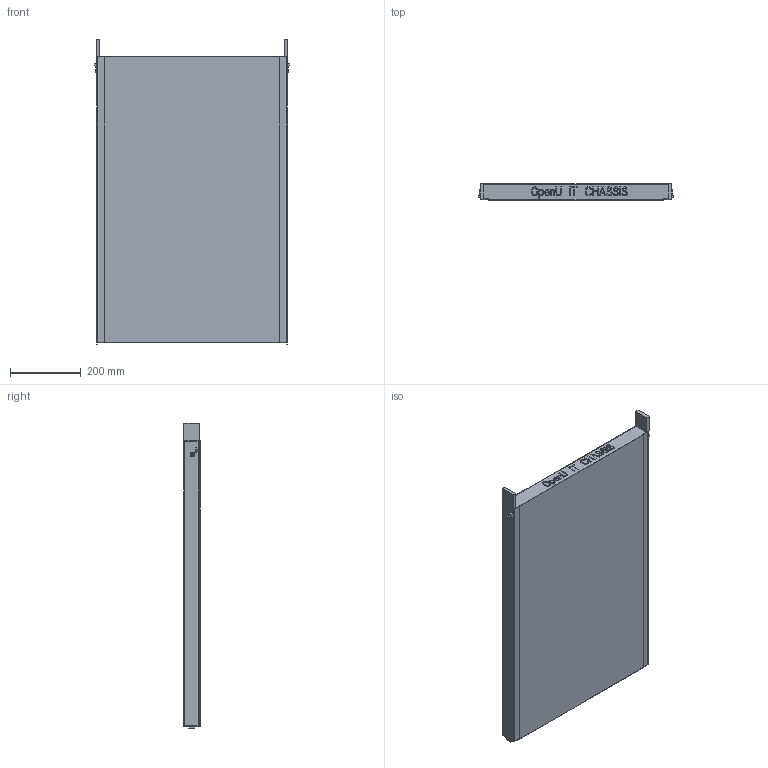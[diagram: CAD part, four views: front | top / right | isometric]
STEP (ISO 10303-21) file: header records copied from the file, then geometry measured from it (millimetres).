
FILE_DESCRIPTION((''),'2;1');
FILE_NAME('002-OU_IT_SPACIAL_ORV3_REF_03','2022-09-29T22:59:49',('gpcharest'),(''),'CREO PARAMETRIC BY PTC INC, 2021424','CREO PARAMETRIC BY PTC INC, 2021424','');
FILE_SCHEMA(('CONFIG_CONTROL_DESIGN'));
Length unit declared in the file: millimetre
Products named in the file (1): 002-OU_IT_SPACIAL_ORV3_REF_03
Bounding box: 552 x 46.5 x 862 mm (x, y, z)
Volume: 1457275.9 mm3; surface area: 1972171.7 mm2
Topology: 1 solids, 3 shells, 533 faces, 1509 edges, 1006 vertices
Faces by surface type: plane 521, cylinder 12
Entity records: 16969 total; most frequent: CARTESIAN_POINT 3049, ORIENTED_EDGE 3018, DIRECTION 2603, EDGE_CURVE 1509, VECTOR 1483, LINE 1483, VERTEX_POINT 1006, AXIS2_PLACEMENT_3D 560
